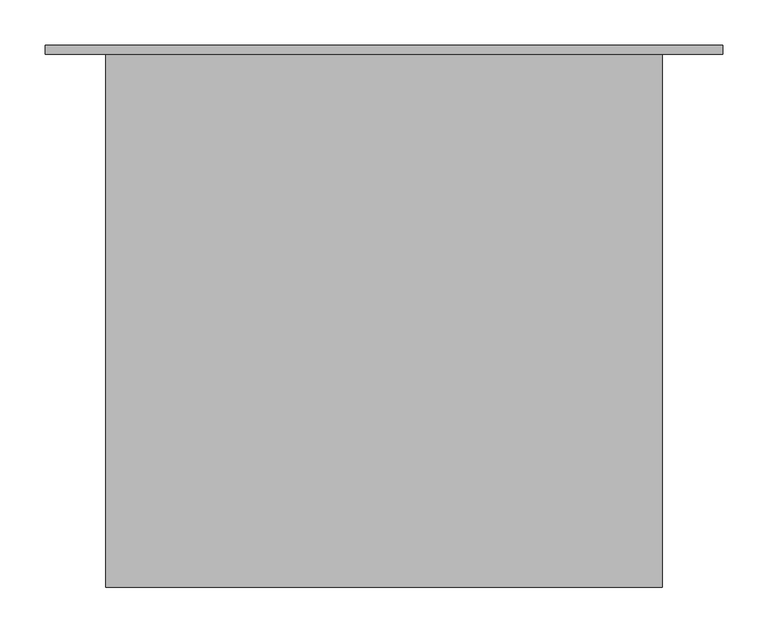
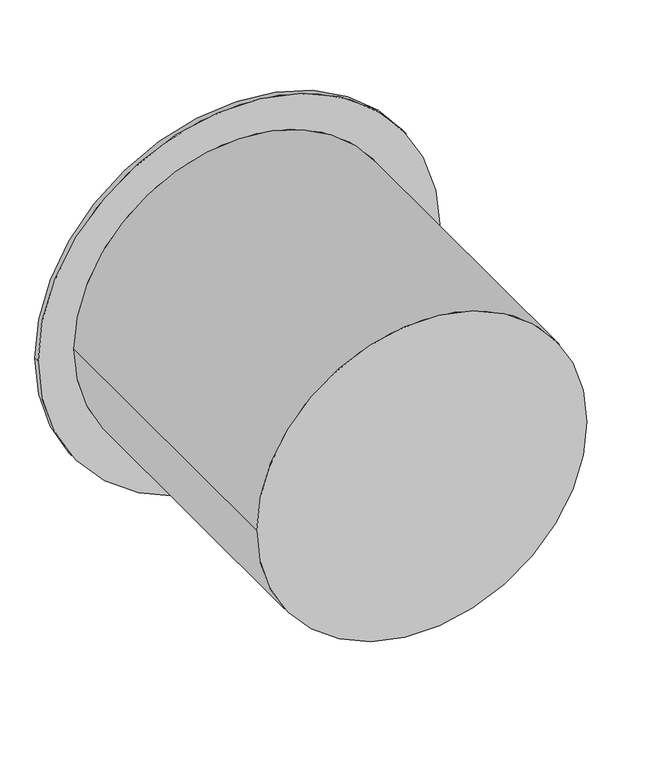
"""IFC4 building model written with IfcOpenShell, lengths in millimetres: proxy geometry, 600mmDia x 600mm High Riser."""

from ifc_helpers import new_model, si_unit, frame, origin, place, context, project, spatial, circle_curve, source, transform, mapped, element, save
from ifc_brep_helpers import plane_surface, cylinder_surface, advanced_brep


def generic_models_fa2389d8(model_context):
    return source(origin(), model_context, "Body", "AdvancedBrep", [
        advanced_brep(
        [(-375.0, 590.0, 0.0), (-375.0, 600.0, 0.0), (375.0, 600.0, 0.0), (375.0, 590.0, 0.0), (-308.0, 0.0, 0.0), (-308.0, 590.0, 0.0), (308.0, 590.0, 0.0), (308.0, 0.0, 0.0)],
        [
            (0, 1),
            (1, 2, circle_curve(frame((0.0, 600.0, 0.0), z_axis=(0.0, -1.0, 0.0), x_axis=(-1.0, 0.0, 0.0)), 375.0)),
            (2, 3),
            (3, 0, circle_curve(frame((0.0, 590.0, 0.0), z_axis=(0.0, 1.0, 0.0), x_axis=(-1.0, 0.0, 0.0)), 375.0)),
            (4, 5),
            (5, 6, circle_curve(frame((0.0, 590.0, 0.0), z_axis=(0.0, -1.0, 0.0), x_axis=(-1.0, 0.0, 0.0)), 308.0)),
            (6, 7),
            (7, 4, circle_curve(frame((0.0, 0.0, 0.0), z_axis=(0.0, 1.0, 0.0), x_axis=(-1.0, 0.0, 0.0)), 308.0)),
            (7, 4, circle_curve(frame((0.0, 0.0, 0.0), z_axis=(0.0, -1.0, 0.0), x_axis=(-1.0, 0.0, 0.0)), 308.0)),
            (1, 2, circle_curve(frame((0.0, 600.0, 0.0), z_axis=(0.0, 1.0, 0.0), x_axis=(-1.0, 0.0, 0.0)), 375.0)),
            (6, 5, circle_curve(frame((0.0, 590.0, 0.0), z_axis=(0.0, -1.0, 0.0), x_axis=(-1.0, 0.0, 0.0)), 308.0)),
            (3, 0, circle_curve(frame((0.0, 590.0, 0.0), z_axis=(0.0, -1.0, 0.0), x_axis=(-1.0, 0.0, 0.0)), 375.0)),
        ],
        [
            cylinder_surface(frame((0.0, 595.0, 0.0), z_axis=(0.0, 1.0, 0.0), x_axis=(-1.0, 0.0, 0.0)), 375.0),
            cylinder_surface(frame((0.0, 295.0, 0.0), z_axis=(0.0, 1.0, 0.0), x_axis=(-1.0, 0.0, 0.0)), 308.0),
            plane_surface(frame((-308.0, 0.0, 0.0), z_axis=(0.0, -1.0, 0.0), x_axis=(0.0, 0.0, -1.0))),
            plane_surface(frame((-300.0, 600.0, 0.0), z_axis=(0.0, 1.0, 0.0), x_axis=(0.0, 0.0, 1.0))),
            plane_surface(frame((-375.0, 590.0, 0.0), z_axis=(0.0, -1.0, 0.0), x_axis=(0.0, 0.0, -1.0))),
        ],
        [
            (0, [[1, 2, 3, 4]]),
            (1, [[5, 6, 7, 8]]),
            (2, [[9, -8]]),
            (3, [[10, -2]]),
            (1, [[-5, -9, -7, 11]]),
            (4, [[12, -4], [-11, -6]]),
            (0, [[-1, -12, -3, -10]]),
        ],
    ),
    ])


if __name__ == "__main__":
    model = new_model("IFC4")
    model_context = context("Model", 3, world=origin())
    ifc_project = project(units=[si_unit("LENGTHUNIT", "METRE", prefix="MILLI")], contexts=[model_context])
    site = spatial("IfcSite", under=ifc_project)
    building = spatial("IfcBuilding", under=site)
    placement = place(None, origin())
    generic_models_shape = generic_models_fa2389d8(model_context)
    element("IfcBuildingElementProxy", 1, Name="600mmDia x 600mm High Riser", ObjectType="600mmDia x 600mm High Riser", at=placement, inside=building, context=model_context, shape_type="MappedRepresentation", body=[
        mapped(generic_models_shape, transform((0.0, 0.0, 0.0), x_axis=(1.0, 0.0, 0.0), y_axis=(0.0, 1.0, 0.0), z_axis=(0.0, 0.0, 1.0))),
    ])
    save(model, "model.ifc")
